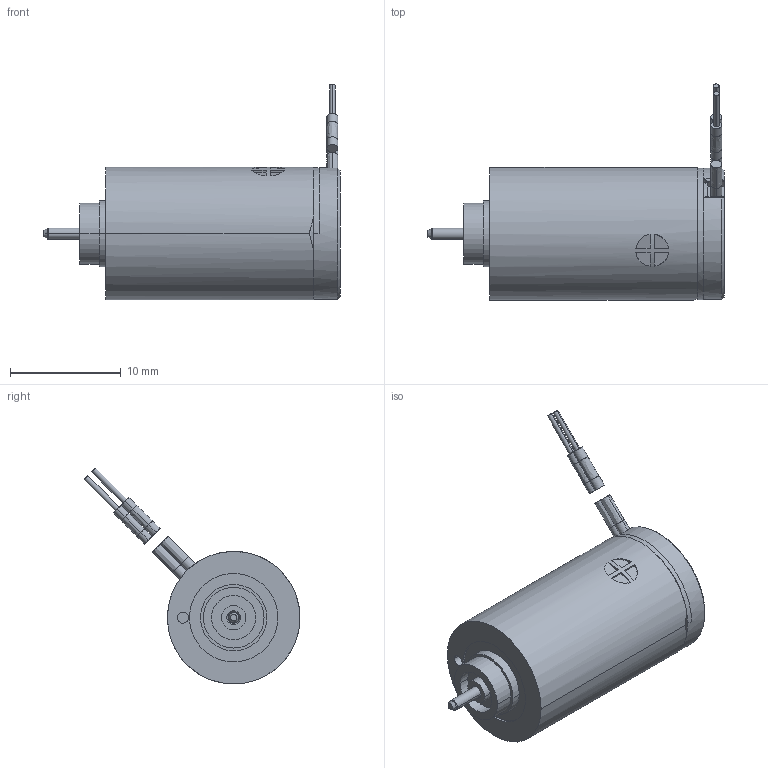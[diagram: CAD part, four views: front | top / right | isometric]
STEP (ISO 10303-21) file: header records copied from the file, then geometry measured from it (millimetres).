
FILE_DESCRIPTION((''),'2;1');
FILE_NAME('200937_SW0001','2016-10-10T',('mmagvisi'),(''),'CREO PARAMETRIC BY PTC INC, 2016050','CREO PARAMETRIC BY PTC INC, 2016050','');
FILE_SCHEMA(('CONFIG_CONTROL_DESIGN'));
Length unit declared in the file: millimetre
Products named in the file (1): 200937_SW0001
Bounding box: 26.8 x 19.54 x 19.54 mm (x, y, z)
Volume: 2446.9 mm3; surface area: 1191.9 mm2
Topology: 3 solids, 3 shells, 124 faces, 269 edges, 166 vertices
Faces by surface type: cylinder 53, plane 48, bspline 12, cone 9, torus 2
Entity records: 4673 total; most frequent: CARTESIAN_POINT 932, DIRECTION 589, ORIENTED_EDGE 538, PRESENTATION_STYLE_ASSIGNMENT 286, STYLED_ITEM 280, CURVE_STYLE 269, EDGE_CURVE 269, AXIS2_PLACEMENT_3D 240
